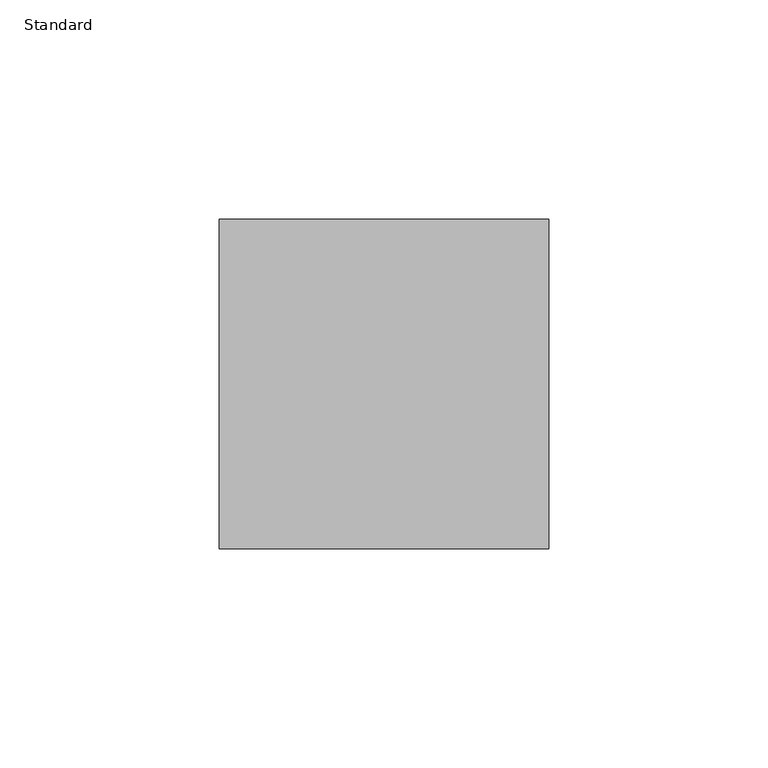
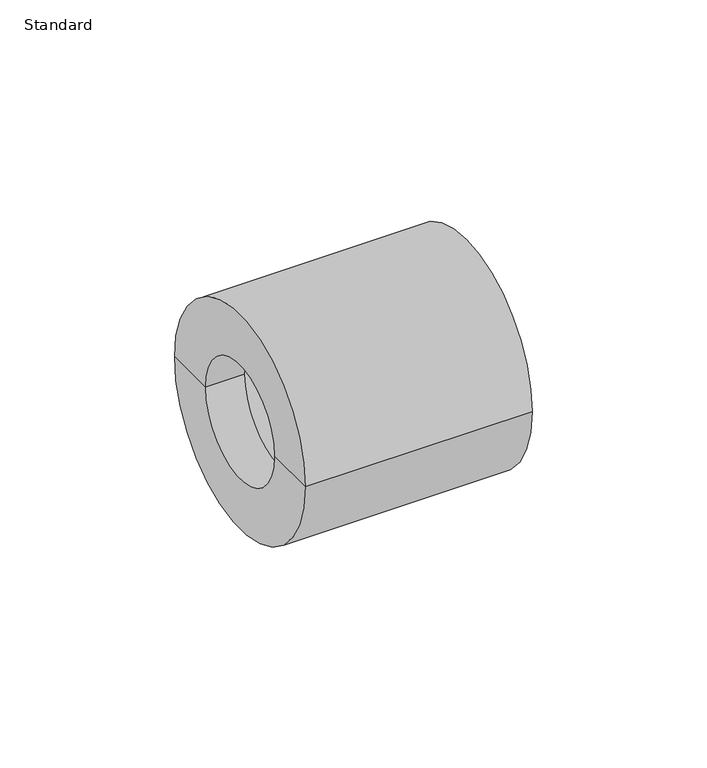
"""IFC4 building model written with IfcOpenShell, lengths in millimetres: pipe fitting geometry, Durapipe_PipeFitting_PVC_ReducingBush : Standard."""

from ifc_helpers import new_model, si_unit, frame, origin, place, context, project, spatial, polyline, circle_curve, source, transform, mapped, element, save
from ifc_brep_helpers import plane_surface, cylinder_surface, revolved_surface, advanced_brep


def standard_133bc545(model_context):
    return source(origin(), model_context, "Body", "AdvancedBrep", [
        advanced_brep(
        [(-13.0, -20.0, 0.0), (-13.0, 20.0, 0.0), (-13.0, 37.5, 0.0), (-13.0, -37.5, 0.0), (0.0, -20.0, 0.0), (0.0, 20.0, 0.0), (0.0, -25.0, 0.0), (0.0, 25.0, 0.0), (62.0, -25.0, 0.0), (62.0, 25.0, 0.0), (62.0, -37.5, 0.0), (62.0, 37.5, 0.0)],
        [
            (0, 1, circle_curve(frame((-13.0, 0.0, 0.0), z_axis=(1.0, 0.0, 0.0), x_axis=(0.0, 1.0, 0.0)), 20.0)),
            (1, 2),
            (2, 3, circle_curve(frame((-13.0, 0.0, 0.0), z_axis=(-1.0, 0.0, 0.0), x_axis=(0.0, 1.0, 0.0)), 37.5)),
            (3, 0),
            (1, 0, circle_curve(frame((-13.0, 0.0, 0.0), z_axis=(1.0, 0.0, 0.0), x_axis=(0.0, 1.0, 0.0)), 20.0)),
            (3, 2, circle_curve(frame((-13.0, 0.0, 0.0), z_axis=(-1.0, 0.0, 0.0), x_axis=(0.0, 1.0, 0.0)), 37.5)),
            (4, 5, circle_curve(frame((0.0, 0.0, 0.0), z_axis=(1.0, 0.0, 0.0), x_axis=(0.0, 1.0, 0.0)), 20.0)),
            (5, 1),
            (0, 4),
            (5, 4, circle_curve(frame((0.0, 0.0, 0.0), z_axis=(1.0, 0.0, 0.0), x_axis=(0.0, 1.0, 0.0)), 20.0)),
            (6, 7, circle_curve(frame((0.0, 0.0, 0.0), z_axis=(1.0, 0.0, 0.0), x_axis=(0.0, 1.0, 0.0)), 25.0)),
            (7, 5),
            (4, 6),
            (7, 6, circle_curve(frame((0.0, 0.0, 0.0), z_axis=(1.0, 0.0, 0.0), x_axis=(0.0, 1.0, 0.0)), 25.0)),
            (8, 9, circle_curve(frame((62.0, 0.0, 0.0), z_axis=(1.0, 0.0, 0.0), x_axis=(0.0, 1.0, 0.0)), 25.0)),
            (9, 7),
            (6, 8),
            (9, 8, circle_curve(frame((62.0, 0.0, 0.0), z_axis=(1.0, 0.0, 0.0), x_axis=(0.0, 1.0, 0.0)), 25.0)),
            (10, 11, circle_curve(frame((62.0, 0.0, 0.0), z_axis=(1.0, 0.0, 0.0), x_axis=(0.0, 1.0, 0.0)), 37.5)),
            (11, 9),
            (8, 10),
            (11, 10, circle_curve(frame((62.0, 0.0, 0.0), z_axis=(1.0, 0.0, 0.0), x_axis=(0.0, 1.0, 0.0)), 37.5)),
            (2, 11),
            (10, 3),
        ],
        [
            plane_surface(frame((-13.0, 0.0, 0.0), z_axis=(-1.0, 0.0, 0.0), x_axis=(0.0, 1.0, 0.0))),
            revolved_surface(polyline([(-13.0, 20.0, 0.0), (0.0, 20.0, 0.0)]), (2048.0, 0.0, 0.0), (-1.0, 0.0, 0.0)),
            plane_surface(frame((0.0, 0.0, 0.0), z_axis=(1.0, 0.0, 0.0), x_axis=(0.0, 1.0, 0.0))),
            revolved_surface(polyline([(0.0, 25.0, 0.0), (62.0, 25.0, 0.0)]), (2048.0, 0.0, 0.0), (-1.0, 0.0, 0.0)),
            plane_surface(frame((62.0, 0.0, 0.0), z_axis=(1.0, 0.0, 0.0), x_axis=(0.0, 1.0, 0.0))),
            cylinder_surface(frame((2048.0, 0.0, 0.0), z_axis=(-1.0, 0.0, 0.0), x_axis=(0.0, 1.0, 0.0)), 37.5),
        ],
        [
            (0, [[1, 2, 3, 4]]),
            (0, [[5, -4, 6, -2]]),
            (1, [[7, 8, -1, 9]]),
            (1, [[10, -9, -5, -8]]),
            (2, [[11, 12, -7, 13]]),
            (2, [[14, -13, -10, -12]]),
            (3, [[15, 16, -11, 17]]),
            (3, [[18, -17, -14, -16]]),
            (4, [[19, 20, -15, 21]]),
            (4, [[22, -21, -18, -20]]),
            (5, [[-3, 23, -19, 24]]),
            (5, [[-6, -24, -22, -23]]),
        ],
    ),
    ])


if __name__ == "__main__":
    model = new_model("IFC4")
    model_context = context("Model", 3, world=origin())
    ifc_project = project(units=[si_unit("LENGTHUNIT", "METRE", prefix="MILLI")], contexts=[model_context])
    site = spatial("IfcSite", under=ifc_project)
    building = spatial("IfcBuilding", under=site)
    placement = place(None, origin())
    standard_shape = standard_133bc545(model_context)
    element("IfcPipeFitting", 1, ObjectType="Durapipe_PipeFitting_PVC_ReducingBush : Standard", at=placement, inside=building, context=model_context, shape_type="MappedRepresentation", body=[
        mapped(standard_shape, transform((0.0, 0.0, 0.0), x_axis=(1.0, 0.0, 0.0), y_axis=(0.0, 1.0, 0.0), z_axis=(0.0, 0.0, 1.0))),
    ])
    save(model, "model.ifc")
